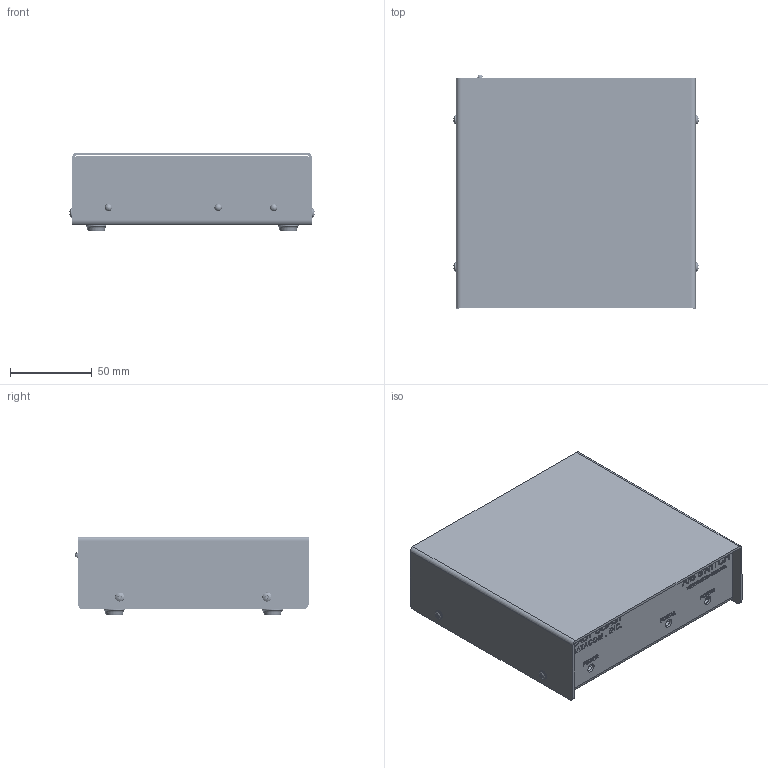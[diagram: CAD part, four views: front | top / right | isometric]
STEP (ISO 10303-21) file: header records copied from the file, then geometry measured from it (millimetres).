
FILE_DESCRIPTION(/* description */ (''),/* implementation_level */ '2;1');
FILE_NAME(/* name */ 'C:/Users/brook/OneDrive/Desktop/ECData/UDC Project/A-B Switch.step',/* time_stamp */ '2022-05-26T09:41:51-04:00',/* author */ (''),/* organization */ (''),/* preprocessor_version */ 'ST-DEVELOPER v19',/* originating_system */ 'Autodesk Translation Framework v11.7.0.108',/* authorisation */ '');
FILE_SCHEMA (('AUTOMOTIVE_DESIGN { 1 0 10303 214 3 1 1 }'));
Products named in the file (18): Master Assembly; Chassis; PCB; 710001; RJ45; Component1; 182-009-213; 93090A210_Press-Fit Threaded Standoffs; Jack Screw for K42X-B25S-S-A4NJ-rA3; Cover; 91772A106_Passivated 18-8 Stainless Steel Pan Head Phillips Screw; Small Self Clinching Stud 93580A215_Press-Fit Studs; 6-32 Lock Washer; 712RA--3DModel-STEP-1; Component1_1; Component2; Component3; SJxx12
Assembly tree (35 placements, depth 4):
  Master Assembly
    Chassis
    PCB
      710001  x3
      RJ45
        Component1
      182-009-213  x3
    93090A210_Press-Fit Threaded Standoffs  x2
    91772A106_Passivated 18-8 Stainless Steel Pan Head Phillips Screw  x6
    Jack Screw for K42X-B25S-S-A4NJ-rA3  x6
    Cover
    Small Self Clinching Stud 93580A215_Press-Fit Studs
    6-32 Lock Washer
    712RA--3DModel-STEP-1
      Component1_1
      Component2
      Component3
    SJxx12  x4
Bounding box: 149.95 x 142.37 x 48.01 mm (x, y, z)
Volume: 143015.3 mm3; surface area: 181383.1 mm2
Topology: 42 solids, 42 shells, 4187 faces, 11180 edges, 7356 vertices
Faces by surface type: plane 2166, bspline 1094, cylinder 735, cone 111, torus 72, sphere 9
Full cylindrical faces by diameter (mm): 0.65 x12, 1.143 x27, 2.02 x68, 2.261 x6, 2.271 x12, 2.286 x4, 2.474 x8, 2.646 x2, 2.845 x76, 2.91 x1, 2.972 x1, 3.048 x12, 3.175 x6, 3.505 x12, 3.556 x8, 4.191 x2, 4.216 x2, 4.445 x3, 4.45 x3, 4.75 x3, 5.093 x1, 5.436 x3, 5.563 x6, 5.842 x1, 5.944 x1, 5.96 x1, 6.198 x2, 6.401 x1, 6.792 x1, 6.934 x5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
Entity records: 118031 total; most frequent: CARTESIAN_POINT 45325, ORIENTED_EDGE 16524, DIRECTION 10822, EDGE_CURVE 8262, VERTEX_POINT 5468, LINE 5140, VECTOR 5140, EDGE_LOOP 3364
